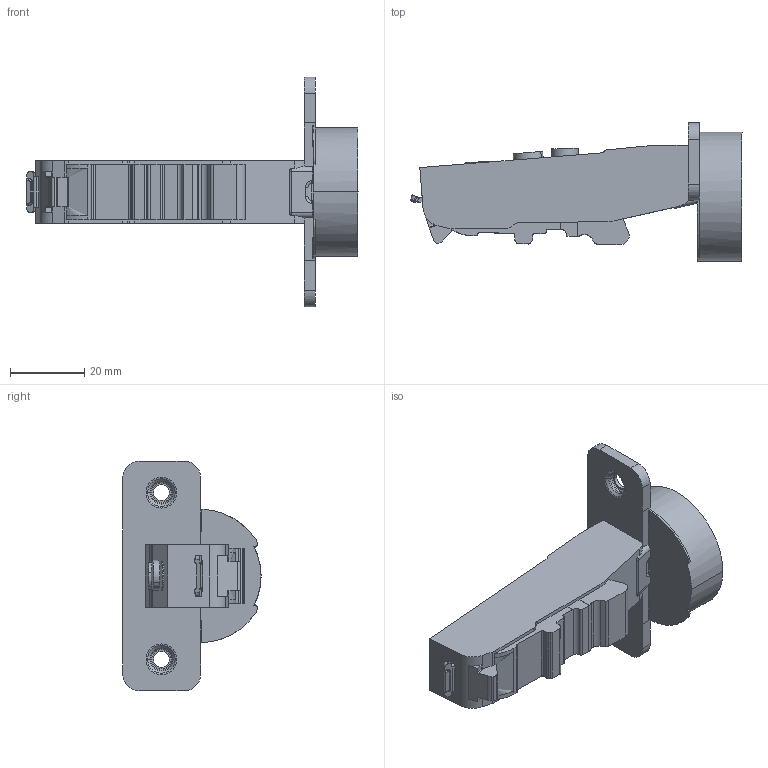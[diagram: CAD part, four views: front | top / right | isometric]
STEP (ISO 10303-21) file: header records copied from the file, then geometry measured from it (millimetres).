
FILE_DESCRIPTION (( 'STEP AP203' ), '1' );
FILE_NAME ('C81B875FAB DTC 3D CLOSE.STEP', '2024-07-26T00:12:39', ( '微软用户' ), ( '微软中国' ), 'SwSTEP 2.0', 'SolidWorks 2021', '' );
FILE_SCHEMA (( 'CONFIG_CONTROL_DESIGN' ));
Length unit declared in the file: millimetre
Products named in the file (1): C81B875FAB DTC 3D CLOSE
Bounding box: 89.61 x 37.33 x 62 mm (x, y, z)
Volume: 39206.2 mm3; surface area: 11075.6 mm2
Topology: 1 solids, 1 shells, 254 faces, 718 edges, 472 vertices
Faces by surface type: cylinder 110, plane 97, torus 28, bspline 15, cone 4
Entity records: 9095 total; most frequent: CARTESIAN_POINT 2500, ORIENTED_EDGE 1436, DIRECTION 1328, EDGE_CURVE 718, AXIS2_PLACEMENT_3D 489, VERTEX_POINT 472, VECTOR 350, LINE 350
